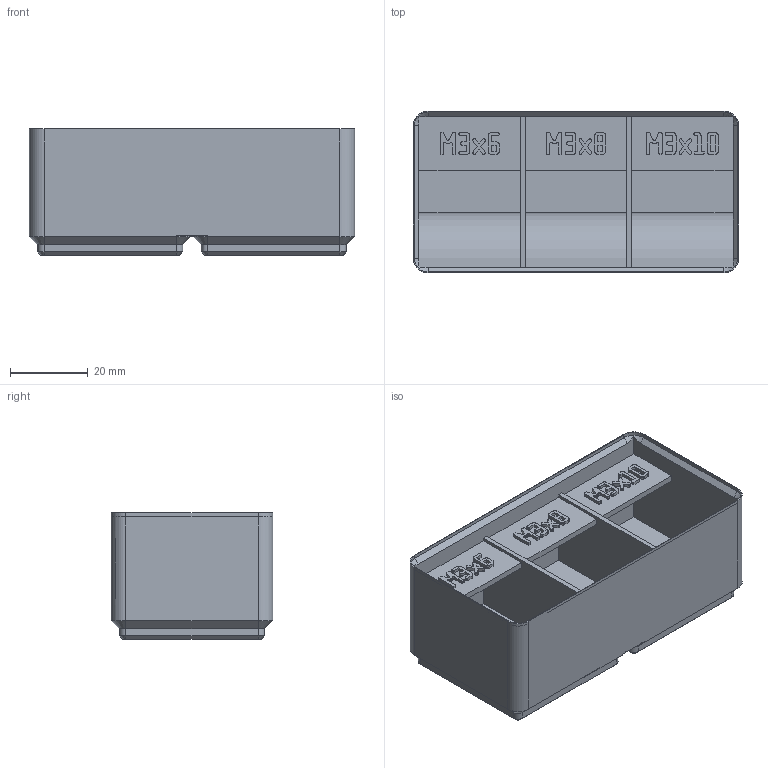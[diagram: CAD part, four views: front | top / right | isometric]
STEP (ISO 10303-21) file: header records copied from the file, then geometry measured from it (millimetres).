
FILE_DESCRIPTION(('Open CASCADE Model'),'2;1');
FILE_NAME('Open CASCADE Shape Model','2026-11-16T17:32:02',('Author'),( 'Open CASCADE'),'Open CASCADE STEP processor 8.0','build123d', 'Unknown');
FILE_SCHEMA(('AUTOMOTIVE_DESIGN { 1 0 10303 214 1 1 1 1 }'));
Products named in the file (1): SOLID
Bounding box: 83.5 x 41.5 x 32.4 mm (x, y, z)
Volume: 49370.3 mm3; surface area: 23477.4 mm2
Topology: 1 solids, 1 shells, 1487 faces, 4339 edges, 2874 vertices
Faces by surface type: plane 1444, cylinder 23, cone 20
Entity records: 101806 total; most frequent: CARTESIAN_POINT 20459, DIRECTION 13159, LINE 10035, VECTOR 10035, ORIENTED_EDGE 8678, PCURVE 8678, DEFINITIONAL_REPRESENTATION 8678, EDGE_CURVE 4339
